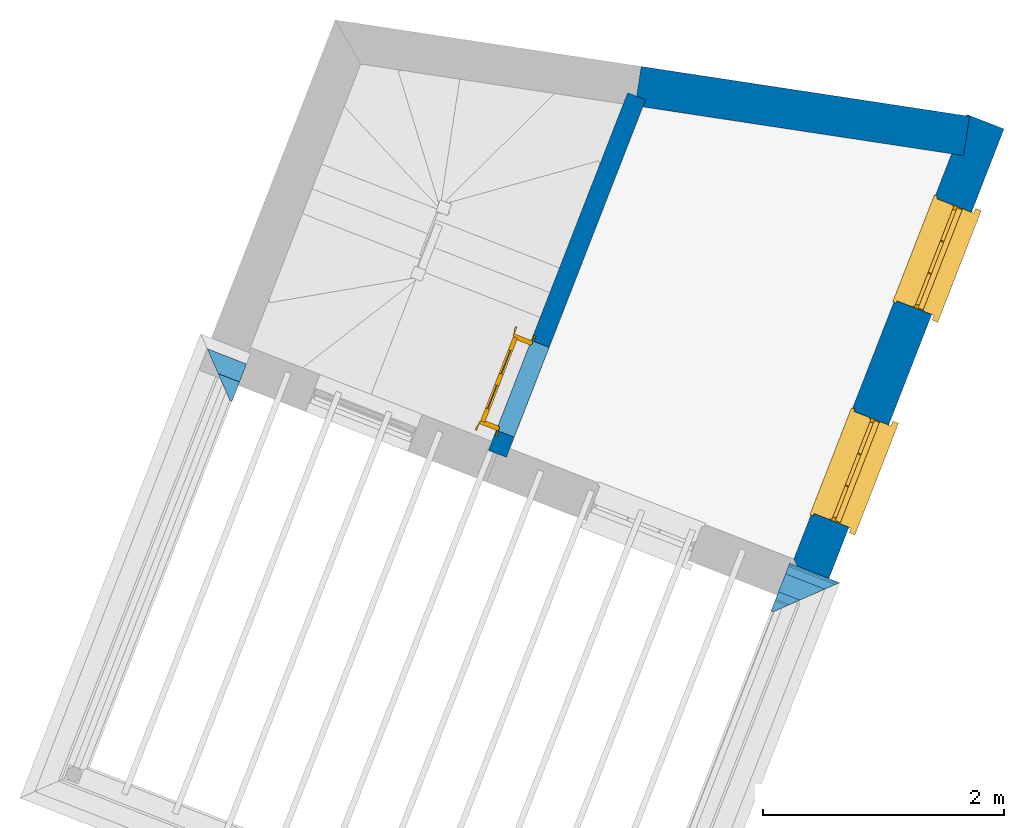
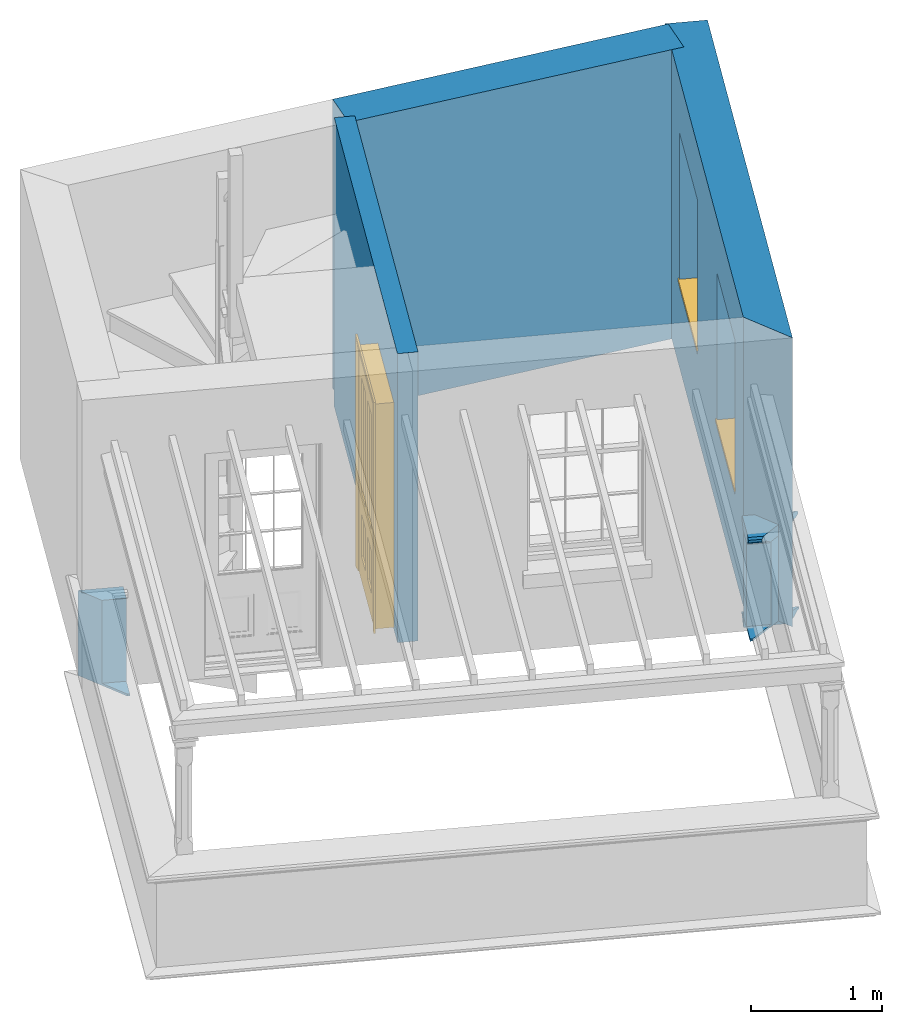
# One storey, part 3 of 5: 7 walls, 2 windows, 1 door, 3 openings.
"""IFC4 building model written with IfcOpenShell, lengths in metres."""

from ifc_helpers import new_model, si_unit, frame, origin, origin_with_axes, place, context, subcontext, project, spatial, polyline, outline, extrude, clip, halfspace, faceted_brep, source, transform, mapped, material, layer, layer_set, layer_usage, material_profile, profile_set, profile_usage, type_object, type_shapes, element, fill, save


model = new_model("IFC4")

# Units and contexts
model_context = context("Model", 3, world=origin_with_axes())
body_context = subcontext(model_context, "Body", "Model", "MODEL_VIEW")
ifc_project = project(units=[si_unit("PLANEANGLEUNIT", "RADIAN"), si_unit("MASSUNIT", "GRAM", prefix="KILO"), si_unit("FORCEUNIT", "NEWTON", prefix="KILO"), si_unit("LENGTHUNIT", "METRE"), si_unit("AREAUNIT", "SQUARE_METRE"), si_unit("VOLUMEUNIT", "CUBIC_METRE")], contexts=[model_context, model_context])

# Sites, building, storey
site_1_placement = place(None, origin_with_axes())
site_1 = spatial("IfcSite", under=ifc_project, at=site_1_placement, Name="Tamar")
site_2_placement = place(site_1_placement, origin_with_axes())
site_2 = spatial("IfcSite", under=site_1, at=site_2_placement, Name="Site plot-10", CompositionType="ELEMENT")
building_placement = place(None, origin_with_axes())
building = spatial("IfcBuilding", under=site_2, at=building_placement, Name="Building plot-10", CompositionType="ELEMENT")
storey_placement = place(None, frame((0.0, 0.0, 30.1), z_axis=(0.0, 0.0, 1.0), x_axis=(1.0, 0.0, 0.0)))
storey = spatial("IfcBuildingStorey", under=building, at=storey_placement, Name="plot-10 1", CompositionType="ELEMENT", Elevation=30.1)

# Wall, openings, windows
ifc_material_1 = material(Name="Masonry")
ifc_layer_1 = layer(ifc_material_1, 0.33, ventilated=False)
ifc_layer_set_1 = layer_set([ifc_layer_1], Name="exterior_0.08_0.25")
ifc_layer_usage_1 = layer_usage(ifc_layer_set_1, "AXIS2", "POSITIVE", -0.25)
wall_type_1 = type_object("IfcWallType", Name="exterior_0.08_0.25", PredefinedType="SOLIDWALL", material=ifc_layer_set_1)
wall_1_placement = place(storey_placement, frame((236.125582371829, 318.345961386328, 0.0), z_axis=(0.0, 0.0, 1.0), x_axis=(0.362808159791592, 0.93186385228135, 0.0)))
wall_1 = element("IfcWall", 1, at=wall_1_placement, inside=storey, type_object=wall_type_1, material=ifc_layer_usage_1, Name="exterior", context=body_context, shape_type="SweptSolid", body=[
    extrude(outline(polyline([(0.0800000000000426, 0.0800000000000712), (-0.250000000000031, -0.250000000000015), (4.03870069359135, -0.249999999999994), (4.03870069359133, 0.0800000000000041), (0.0800000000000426, 0.0800000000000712)])), origin_with_axes(), (0.0, 0.0, 1.0), 2.7),
])
opening_1_placement = place(wall_1_placement, frame((0.492175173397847, 0.0, 0.75)))
opening_1 = element("IfcOpeningElement", 2, at=opening_1_placement, cuts=wall_1, Name="My Opening", ObjectType="Opening", context=body_context, shape_type="SweptSolid", body=[
    extrude(outline(polyline([(0.0, -0.269999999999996), (0.910000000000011, -0.269999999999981), (0.91000000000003, 1.10000000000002), (1.93178806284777e-14, 1.10000000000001), (0.0, -0.269999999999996)])), origin_with_axes(), (0.0, 0.0, 1.0), 1.445),
])
opening_2_placement = place(wall_1_placement, frame((2.38652552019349, 0.0, 0.75)))
opening_2 = element("IfcOpeningElement", 3, at=opening_2_placement, cuts=wall_1, Name="My Opening", ObjectType="Opening", context=body_context, shape_type="SweptSolid", body=[
    extrude(outline(polyline([(0.0, -0.270000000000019), (0.91000000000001, -0.270000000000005), (0.91000000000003, 1.1), (1.90958360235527e-14, 1.09999999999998), (0.0, -0.270000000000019)])), origin_with_axes(), (0.0, 0.0, 1.0), 1.445),
])
window_type = type_object("IfcWindowType", Name="sash_shorter", PartitioningType="DOUBLE_PANEL_HORIZONTAL", PredefinedType="NOTDEFINED")
shared_shape_1 = source(origin(), body_context, "Body", "Brep", [
    faceted_brep([(0.876875, 0.145, 0.999097), (0.876875, 0.145, 1.411875), (0.9, 0.145, 1.435), (0.033125, 0.145, 1.411875), (0.033125, 0.145, 0.999097), (0.01, 0.145, 1.435), (0.033125, 0.115, 1.411875), (0.01, 0.115, 1.435), (0.033125, 0.115, 0.999097), (0.876875, 0.115, 1.411875), (0.876875, 0.115, 0.999097), (0.9, 0.115, 1.435), (0.033125, 0.145, 0.960972), (0.01, 0.145, 0.960972), (0.033125, 0.145, 0.548195), (0.876875, 0.145, 0.960972), (0.876875, 0.145, 0.548195), (0.9, 0.145, 0.960972), (0.876875, 0.145, 0.538195), (0.876875, 0.145, 0.125417), (0.9, 0.145, 0.077167), (0.033125, 0.145, 0.125417), (0.033125, 0.145, 0.538195), (0.01, 0.145, 0.077167), (0.9, 0.115, 0.960972), (0.01, 0.115, 0.960972), (-0.0425, 0.0, 0.01), (-0.0425, -0.05, 0.001667), (0.0, 0.0, 0.01), (0.9525, 0.0, 0.01), (0.91, 0.0, 0.01), (0.9525, -0.05, 0.001667), (-0.02, 0.33, 0.077167), (0.0, 0.33, 0.077167), (-0.02, 0.36, 0.077167), (0.0, 0.19, 0.077167), (0.01, 0.19, 0.077167), (0.91, 0.19, 0.077167), (0.91, 0.33, 0.077167), (0.9, 0.19, 0.077167), (0.93, 0.33, 0.077167), (0.93, 0.36, 0.077167), (0.01, 0.145, 0.999097), (0.01, 0.175, 0.999097), (0.9, 0.145, 0.999097), (0.9, 0.175, 0.999097), (0.876875, 0.175, 0.125417), (0.876875, 0.175, 0.538195), (0.9, 0.175, 0.077167), (0.876875, 0.175, 0.548195), (0.876875, 0.175, 0.960972), (0.033125, 0.175, 0.125417), (0.01, 0.175, 0.077167), (0.033125, 0.175, 0.538195), (0.033125, 0.175, 0.960972), (0.033125, 0.175, 0.548195), (-0.02, 0.33, 0.052167), (-0.02, 0.36, 0.052167), (0.93, 0.36, 0.052167), (0.93, 0.33, 0.052167), (0.91, 0.33, 0.052167), (0.0, 0.33, 0.052167), (0.91, 0.1, 0.026667), (0.0, 0.1, 0.026667), (-0.0425, -0.05, -0.123333), (0.9525, -0.05, -0.123333), (-0.0425, 0.0, -0.123333), (0.9525, 0.0, -0.123333), (0.01, 0.19, 1.435), (0.9, 0.19, 1.435), (0.0, 0.19, 1.445), (0.91, 0.19, 1.445), (0.01, 0.1, 0.077167), (0.9, 0.1, 0.077167), (0.592292, 0.145, 0.125417), (0.592292, 0.175, 0.125417), (0.317708, 0.175, 0.125417), (0.317708, 0.145, 0.125417), (0.592292, 0.145, 0.548195), (0.317708, 0.145, 0.548195), (0.317708, 0.145, 0.538195), (0.592292, 0.145, 0.538195), (0.592292, 0.175, 0.548195), (0.317708, 0.175, 0.548195), (0.602292, 0.175, 0.548195), (0.602292, 0.145, 0.548195), (0.317708, 0.175, 0.538195), (0.307708, 0.175, 0.125417), (0.307708, 0.175, 0.538195), (0.602292, 0.175, 0.538195), (0.602292, 0.175, 0.125417), (0.592292, 0.175, 0.538195), (0.307708, 0.175, 0.548195), (0.317708, 0.175, 0.960972), (0.307708, 0.175, 0.960972), (0.602292, 0.175, 0.960972), (0.592292, 0.175, 0.960972), (0.307708, 0.145, 0.538195), (0.307708, 0.145, 0.125417), (0.307708, 0.145, 0.548195), (0.307708, 0.145, 0.960972), (0.592292, 0.145, 0.960972), (0.317708, 0.145, 0.960972), (0.602292, 0.145, 0.960972), (0.602292, 0.145, 0.538195), (0.602292, 0.145, 0.125417), (0.317708, 0.115, 1.411875), (0.307708, 0.115, 1.411875), (0.307708, 0.115, 0.999097), (0.317708, 0.115, 0.999097), (0.602292, 0.115, 1.411875), (0.592292, 0.115, 1.411875), (0.592292, 0.115, 0.999097), (0.602292, 0.115, 0.999097), (0.317708, 0.145, 0.999097), (0.307708, 0.145, 0.999097), (0.307708, 0.145, 1.411875), (0.317708, 0.145, 1.411875), (0.602292, 0.145, 0.999097), (0.592292, 0.145, 0.999097), (0.592292, 0.145, 1.411875), (0.602292, 0.145, 1.411875), (0.91, 0.1, 1.445), (0.9, 0.1, 1.435), (0.01, 0.1, 1.435), (0.0, 0.1, 1.445), (0.91, 0.0, 0.0), (0.0, 0.0, 0.0), (0.91, 0.33, 0.0), (0.0, 0.33, 0.0)], [[[0, 1, 2]], [[3, 4, 5]], [[6, 7, 8]], [[9, 10, 11]], [[12, 13, 14]], [[15, 16, 17]], [[18, 19, 20]], [[21, 22, 23]], [[24, 15, 17]], [[13, 12, 25]], [[26, 27, 28]], [[29, 30, 31]], [[32, 33, 34]], [[35, 36, 33]], [[37, 38, 39]], [[40, 41, 38]], [[42, 4, 43]], [[44, 45, 0]], [[46, 47, 48]], [[49, 50, 45]], [[51, 52, 53]], [[54, 55, 43]], [[38, 33, 36, 39]], [[41, 34, 33, 38]], [[56, 32, 34, 57]], [[57, 34, 41, 58]], [[58, 41, 40, 59]], [[57, 58, 60, 61]], [[52, 48, 39, 36]], [[62, 63, 28, 30]], [[27, 31, 30, 28]], [[27, 64, 65, 31]], [[66, 67, 65, 64]], [[2, 5, 68, 69]], [[68, 70, 71, 69]], [[20, 23, 72, 73]], [[73, 72, 63, 62]], [[74, 75, 76, 77]], [[78, 79, 80, 81]], [[78, 82, 83, 79]], [[16, 49, 84, 85]], [[86, 76, 87, 88]], [[89, 90, 75, 91]], [[92, 88, 53, 55]], [[82, 91, 86, 83]], [[93, 83, 92, 94]], [[95, 84, 82, 96]], [[89, 84, 49, 47]], [[97, 88, 87, 98]], [[22, 53, 88, 97]], [[81, 91, 75, 74]], [[80, 86, 91, 81]], [[77, 76, 86, 80]], [[99, 92, 55, 14]], [[100, 94, 92, 99]], [[101, 96, 82, 78]], [[79, 83, 93, 102]], [[85, 84, 95, 103]], [[104, 89, 47, 18]], [[105, 90, 89, 104]], [[104, 18, 16, 85]], [[80, 97, 98, 77]], [[104, 81, 74, 105]], [[103, 101, 78, 85]], [[99, 14, 22, 97]], [[102, 100, 99, 79]], [[106, 107, 108, 109]], [[110, 111, 112, 113]], [[114, 115, 116, 117]], [[118, 119, 120, 121]], [[107, 116, 115, 108]], [[111, 120, 119, 112]], [[109, 114, 117, 106]], [[113, 118, 121, 110]], [[85, 78, 81, 104]], [[84, 89, 91, 82]], [[83, 86, 88, 92]], [[79, 99, 97, 80]], [[109, 112, 119, 114]], [[102, 93, 96, 101]], [[106, 117, 120, 111]], [[98, 87, 51, 21]], [[6, 3, 116, 107]], [[110, 121, 1, 9]], [[19, 46, 90, 105]], [[26, 66, 64, 27]], [[29, 31, 65, 67]], [[25, 24, 112, 109]], [[11, 7, 106, 111]], [[75, 48, 52, 76]], [[43, 45, 96, 93]], [[45, 43, 114, 119]], [[5, 2, 120, 117]], [[24, 25, 102, 101]], [[42, 5, 4]], [[2, 44, 0]], [[49, 45, 48, 47]], [[52, 43, 55, 53]], [[14, 13, 23, 22]], [[20, 17, 16, 18]], [[24, 11, 10]], [[25, 8, 7]], [[8, 4, 3, 6]], [[9, 1, 0, 10]], [[15, 50, 49, 16]], [[18, 47, 46, 19]], [[21, 51, 53, 22]], [[14, 55, 54, 12]], [[44, 2, 69, 45]], [[68, 5, 42, 43]], [[36, 35, 70, 68]], [[39, 69, 71, 37]], [[62, 122, 123, 73]], [[63, 72, 124, 125]], [[8, 108, 115, 4]], [[113, 10, 0, 118]], [[94, 100, 12, 54]], [[17, 20, 73, 24]], [[72, 23, 13, 25]], [[52, 36, 68, 43]], [[69, 39, 48, 45]], [[11, 24, 73, 123]], [[7, 124, 72, 25]], [[23, 77, 98]], [[98, 21, 23]], [[105, 74, 20]], [[20, 19, 105]], [[20, 74, 77, 23]], [[113, 112, 24]], [[24, 10, 113]], [[25, 109, 108]], [[108, 8, 25]], [[110, 9, 11]], [[11, 111, 110]], [[7, 6, 107]], [[107, 106, 7]], [[5, 117, 116]], [[116, 3, 5]], [[121, 120, 2]], [[2, 1, 121]], [[11, 123, 124, 7]], [[122, 125, 124, 123]], [[43, 93, 94]], [[94, 54, 43]], [[96, 45, 95]], [[50, 95, 45]], [[15, 103, 95, 50]], [[48, 75, 90]], [[90, 46, 48]], [[87, 76, 52]], [[52, 51, 87]], [[103, 15, 24]], [[24, 101, 103]], [[100, 102, 25]], [[25, 12, 100]], [[115, 114, 43]], [[43, 4, 115]], [[118, 0, 45]], [[45, 119, 118]], [[71, 70, 125, 122]], [[70, 35, 63, 125]], [[122, 62, 37, 71]], [[126, 67, 66, 127]], [[60, 58, 59]], [[38, 60, 59, 40]], [[61, 56, 57]], [[32, 56, 61, 33]], [[61, 60, 128, 129]], [[62, 60, 38, 37]], [[126, 128, 60, 62]], [[33, 61, 63, 35]], [[61, 129, 127, 63]], [[128, 126, 127, 129]], [[28, 127, 66, 26]], [[63, 127, 28]], [[29, 67, 126, 30]], [[30, 126, 62]]]),
])
type_shapes(window_type, [shared_shape_1])
window_1_placement = place(storey_placement, frame((236.555750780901, 318.706643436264, 0.75), z_axis=(0.0, 0.0, 1.0), x_axis=(0.330155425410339, 0.847996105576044, 0.0)))
window_1 = element("IfcWindow", 4, at=window_1_placement, inside=storey, type_object=window_type, Name="toilet outside window", OverallHeight=1.445, OverallWidth=0.91, context=body_context, shape_type="MappedRepresentation", body=[
    mapped(shared_shape_1, transform((0.0, 0.0, 0.0), scale=1.0)),
])
fill(opening_1, window_1)
window_2_placement = place(storey_placement, frame((237.243036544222, 320.471920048, 0.75), z_axis=(0.0, 0.0, 1.0), x_axis=(0.330155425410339, 0.847996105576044, 0.0)))
window_2 = element("IfcWindow", 5, at=window_2_placement, inside=storey, type_object=window_type, Name="toilet outside window", OverallHeight=1.445, OverallWidth=0.91, context=body_context, shape_type="MappedRepresentation", body=[
    mapped(shared_shape_1, transform((0.0, 0.0, 0.0), scale=1.0)),
])
fill(opening_2, window_2)

# Wall
ifc_material_2 = material(Name="Masonry")
ifc_layer_2 = layer(ifc_material_2, 0.33, ventilated=False)
ifc_layer_set_2 = layer_set([ifc_layer_2], Name="party_0.08_0.25")
ifc_layer_usage_2 = layer_usage(ifc_layer_set_2, "AXIS2", "POSITIVE", -0.25)
wall_type_2 = type_object("IfcWallType", Name="party_0.08_0.25", PredefinedType="SOLIDWALL", material=ifc_layer_set_2)
wall_2_placement = place(storey_placement, frame((237.500153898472, 321.876514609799, 0.0), z_axis=(0.0, 0.0, 1.0), x_axis=(-0.988675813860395, 0.150067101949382, 0.0)))
element("IfcWall", 6, at=wall_2_placement, inside=storey, type_object=wall_type_2, material=ifc_layer_usage_2, Name="party", context=body_context, shape_type="SweptSolid", body=[
    extrude(outline(polyline([(-1.30690877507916e-14, 0.0800000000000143), (1.51410916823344e-15, -0.250000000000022), (2.75611606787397, -0.250000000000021), (2.75611606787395, 0.0800000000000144), (-1.30690877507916e-14, 0.0800000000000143)])), origin_with_axes(), (0.0, 0.0, 1.0), 2.7),
])

# Wall, opening, door
ifc_material_3 = material(Name="Masonry")
ifc_layer_3 = layer(ifc_material_3, 0.16, ventilated=False)
ifc_layer_set_3 = layer_set([ifc_layer_3], Name="interior_0.08_0.08")
ifc_layer_usage_3 = layer_usage(ifc_layer_set_3, "AXIS2", "POSITIVE", -0.08)
wall_type_3 = type_object("IfcWallType", Name="interior_0.08_0.08", PredefinedType="SOLIDWALL", material=ifc_layer_set_3)
wall_3_placement = place(storey_placement, frame((233.619521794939, 319.321661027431, 0.0), z_axis=(0.0, 0.0, 1.0), x_axis=(0.362808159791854, 0.931863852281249, 0.0)))
wall_3 = element("IfcWall", 7, at=wall_3_placement, inside=storey, type_object=wall_type_3, material=ifc_layer_usage_3, Name="interior", context=body_context, shape_type="SweptSolid", body=[
    extrude(outline(polyline([(-1.61599486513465e-14, 0.0800000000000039), (1.61697458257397e-14, -0.0800000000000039), (3.18550389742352, -0.0800000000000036), (3.18550389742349, 0.0800000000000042), (-1.61599486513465e-14, 0.0800000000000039)])), origin_with_axes(), (0.0, 0.0, 1.0), 2.7),
])
opening_3_placement = place(wall_3_placement, frame((0.180000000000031, 0.0, 0.0199999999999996)))
opening_3 = element("IfcOpeningElement", 8, at=opening_3_placement, cuts=wall_3, Name="My Opening", ObjectType="Opening", context=body_context, shape_type="SweptSolid", body=[
    extrude(outline(polyline([(0.0, -0.100000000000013), (0.799999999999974, -0.0999999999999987), (0.799999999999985, 1.10000000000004), (1.05193631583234e-14, 1.10000000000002), (0.0, -0.100000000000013)])), origin_with_axes(), (0.0, 0.0, 1.0), 2.1),
])
door_type = type_object("IfcDoorType", Name="door_inside", OperationType="SINGLE_SWING_LEFT", PredefinedType="NOTDEFINED")
shared_shape_2 = source(origin(), body_context, "Body", "Brep", [
    faceted_brep([(0.773, 0.33, 1.895), (0.66, 0.33, 1.895), (0.66, 0.33, 2.073), (0.773, 0.33, 2.073), (0.773, 0.33, 0.82), (0.66, 0.33, 0.82), (0.45, 0.33, 1.895), (0.45, 0.33, 2.073), (0.773, 0.33, 0.62), (0.66, 0.33, 0.62), (0.66, 0.315, 0.82), (0.66, 0.315, 1.895), (0.45, 0.315, 1.895), (0.35, 0.33, 1.895), (0.35, 0.33, 2.073), (0.773, 0.33, 0.225), (0.66, 0.33, 0.225), (0.45, 0.33, 0.62), (0.45, 0.33, 0.82), (0.45, 0.315, 0.82), (0.35, 0.33, 0.82), (0.14, 0.33, 2.073), (0.14, 0.33, 1.895), (0.773, 0.33, 0.0), (0.66, 0.33, 0.0), (0.66, 0.315, 0.225), (0.66, 0.315, 0.62), (0.45, 0.315, 0.62), (0.35, 0.33, 0.62), (0.35, 0.315, 0.82), (0.35, 0.315, 1.895), (0.14, 0.315, 1.895), (0.027, 0.33, 2.073), (0.027, 0.33, 1.895), (0.773, 0.292, 0.0), (0.66, 0.292, 0.0), (0.45, 0.33, 0.0), (0.45, 0.33, 0.225), (0.45, 0.315, 0.225), (0.35, 0.33, 0.225), (0.14, 0.33, 0.82), (0.14, 0.33, 0.62), (0.14, 0.315, 0.82), (0.027, 0.33, 0.82), (0.773, 0.292, 0.225), (0.66, 0.292, 0.225), (0.45, 0.292, 0.0), (0.35, 0.33, 0.0), (0.35, 0.315, 0.225), (0.35, 0.315, 0.62), (0.14, 0.315, 0.62), (0.027, 0.33, 0.62), (0.773, 0.292, 0.62), (0.66, 0.292, 0.62), (0.45, 0.292, 0.225), (0.35, 0.292, 0.0), (0.14, 0.33, 0.225), (0.14, 0.33, 0.0), (0.14, 0.315, 0.225), (0.027, 0.33, 0.225), (0.773, 0.292, 0.82), (0.66, 0.292, 0.82), (0.66, 0.307, 0.62), (0.66, 0.307, 0.225), (0.45, 0.307, 0.225), (0.35, 0.292, 0.225), (0.14, 0.292, 0.0), (0.027, 0.33, 0.0), (0.773, 0.292, 1.895), (0.66, 0.292, 1.895), (0.45, 0.292, 0.62), (0.45, 0.292, 0.82), (0.45, 0.307, 0.62), (0.35, 0.292, 0.62), (0.14, 0.292, 0.225), (0.027, 0.292, 0.0), (0.773, 0.292, 2.073), (0.66, 0.292, 2.073), (0.66, 0.307, 1.895), (0.66, 0.307, 0.82), (0.45, 0.307, 0.82), (0.35, 0.292, 0.82), (0.35, 0.307, 0.62), (0.35, 0.307, 0.225), (0.14, 0.307, 0.225), (0.027, 0.292, 0.225), (0.45, 0.292, 1.895), (0.45, 0.292, 2.073), (0.45, 0.307, 1.895), (0.35, 0.292, 1.895), (0.14, 0.292, 0.82), (0.14, 0.292, 0.62), (0.14, 0.307, 0.62), (0.027, 0.292, 0.62), (0.35, 0.292, 2.073), (0.35, 0.307, 1.895), (0.35, 0.307, 0.82), (0.14, 0.307, 0.82), (0.027, 0.292, 0.82), (0.14, 0.292, 2.073), (0.14, 0.292, 1.895), (0.14, 0.307, 1.895), (0.027, 0.292, 1.895), (0.027, 0.292, 2.073), (0.02, 0.335, 0.0), (0.005, 0.34, 0.0), (0.005, 0.34, 2.095), (0.02, 0.335, 2.08), (0.02, 0.33, 0.0), (0.0, 0.335, 0.0), (0.0, 0.335, 2.1), (0.795, 0.34, 2.095), (0.78, 0.335, 2.08), (0.02, 0.33, 2.08), (0.0, 0.33, 0.0), (-0.032, 0.345, 0.0), (-0.032, 0.345, 2.132), (0.8, 0.335, 2.1), (0.795, 0.34, 0.0), (0.78, 0.335, 0.0), (0.78, 0.33, 2.08), (0.04, 0.29, 0.0), (0.025, 0.29, 0.0), (0.025, 0.29, 2.075), (0.04, 0.29, 2.06), (-0.04, 0.34, 0.0), (-0.04, 0.34, 2.14), (0.832, 0.345, 2.132), (0.8, 0.335, 0.0), (0.78, 0.33, 0.0), (0.8, 0.33, 0.0), (0.86, 0.33, 0.0), (0.86, 0.33, 2.16), (0.8, 0.33, 2.1), (-0.06, 0.33, 2.16), (0.0, 0.33, 2.1), (-0.06, 0.33, 0.0), (-0.04, 0.345, 0.0), (-0.04, 0.345, 2.14), (0.84, 0.34, 2.14), (0.832, 0.345, 0.0), (0.84, 0.34, 0.0), (0.86, 0.345, 0.0), (0.86, 0.345, 2.16), (-0.06, 0.345, 2.16), (-0.06, 0.345, 0.0), (0.84, 0.345, 0.0), (0.84, 0.345, 2.14), (-0.025, 0.155, 0.0), (-0.025, 0.16, 0.0), (-0.025, 0.16, 2.125), (-0.025, 0.155, 2.125), (-0.017, 0.155, 0.0), (-0.017, 0.155, 2.117), (0.825, 0.16, 2.125), (0.825, 0.155, 2.125), (0.825, 0.155, 0.0), (0.845, 0.155, 0.0), (-0.045, 0.155, 2.145), (-0.045, 0.155, 0.0), (0.845, 0.155, 2.145), (0.015, 0.165, 0.0), (0.015, 0.165, 2.085), (0.817, 0.155, 2.117), (0.825, 0.16, 0.0), (0.845, 0.17, 0.0), (0.845, 0.17, 2.145), (-0.045, 0.17, 2.145), (-0.045, 0.17, 0.0), (0.02, 0.16, 0.0), (0.02, 0.16, 2.08), (0.785, 0.165, 2.085), (0.817, 0.155, 0.0), (0.8, 0.17, 0.0), (0.8, 0.17, 2.1), (0.0, 0.17, 2.1), (0.0, 0.17, 0.0), (0.035, 0.165, 0.0), (0.035, 0.165, 2.065), (0.78, 0.16, 2.08), (0.785, 0.165, 0.0), (0.775, 0.29, 2.075), (0.76, 0.29, 2.06), (0.035, 0.17, 2.065), (0.035, 0.17, 0.0), (0.765, 0.165, 2.065), (0.78, 0.16, 0.0), (0.765, 0.17, 0.0), (0.765, 0.17, 2.065), (0.765, 0.165, 0.0), (0.04, 0.17, 2.06), (0.04, 0.17, 0.0), (0.76, 0.17, 2.06), (0.76, 0.17, 0.0), (0.76, 0.29, 0.0), (0.775, 0.29, 0.0), (0.025, 0.33, 0.0), (0.025, 0.33, 2.075), (0.775, 0.33, 0.0), (0.775, 0.33, 2.075)], [[[0, 1, 2, 3]], [[1, 0, 4, 5]], [[1, 6, 7, 2]], [[8, 9, 5, 4]], [[1, 5, 10, 11]], [[6, 1, 11, 12]], [[6, 13, 14, 7]], [[15, 16, 9, 8]], [[9, 17, 18, 5]], [[5, 18, 19, 10]], [[10, 19, 12, 11]], [[18, 6, 12, 19]], [[18, 20, 13, 6]], [[21, 14, 13, 22]], [[23, 24, 16, 15]], [[9, 16, 25, 26]], [[17, 9, 26, 27]], [[17, 28, 20, 18]], [[13, 20, 29, 30]], [[22, 13, 30, 31]], [[32, 21, 22, 33]], [[34, 35, 24, 23]], [[24, 36, 37, 16]], [[16, 37, 38, 25]], [[25, 38, 27, 26]], [[37, 17, 27, 38]], [[37, 39, 28, 17]], [[40, 20, 28, 41]], [[20, 40, 42, 29]], [[31, 30, 29, 42]], [[40, 22, 31, 42]], [[33, 22, 40, 43]], [[35, 34, 44, 45]], [[35, 46, 36, 24]], [[36, 47, 39, 37]], [[28, 39, 48, 49]], [[41, 28, 49, 50]], [[43, 40, 41, 51]], [[45, 44, 52, 53]], [[46, 35, 45, 54]], [[46, 55, 47, 36]], [[56, 39, 47, 57]], [[39, 56, 58, 48]], [[50, 49, 48, 58]], [[56, 41, 50, 58]], [[51, 41, 56, 59]], [[53, 52, 60, 61]], [[45, 53, 62, 63]], [[54, 45, 63, 64]], [[55, 46, 54, 65]], [[55, 66, 57, 47]], [[59, 56, 57, 67]], [[61, 60, 68, 69]], [[70, 53, 61, 71]], [[53, 70, 72, 62]], [[72, 64, 63, 62]], [[70, 54, 64, 72]], [[65, 54, 70, 73]], [[65, 74, 66, 55]], [[67, 57, 66, 75]], [[69, 68, 76, 77]], [[61, 69, 78, 79]], [[71, 61, 79, 80]], [[73, 70, 71, 81]], [[65, 73, 82, 83]], [[74, 65, 83, 84]], [[74, 85, 75, 66]], [[86, 69, 77, 87]], [[69, 86, 88, 78]], [[88, 80, 79, 78]], [[86, 71, 80, 88]], [[81, 71, 86, 89]], [[73, 81, 90, 91]], [[73, 91, 92, 82]], [[83, 82, 92, 84]], [[91, 74, 84, 92]], [[91, 93, 85, 74]], [[89, 86, 87, 94]], [[81, 89, 95, 96]], [[90, 81, 96, 97]], [[90, 98, 93, 91]], [[94, 99, 100, 89]], [[89, 100, 101, 95]], [[101, 97, 96, 95]], [[100, 90, 97, 101]], [[100, 102, 98, 90]], [[99, 103, 102, 100]], [[32, 103, 99, 21]], [[102, 103, 32, 33]], [[98, 102, 33, 43]], [[21, 99, 94, 14]], [[94, 87, 7, 14]], [[7, 87, 77, 2]], [[76, 3, 2, 77]], [[43, 51, 93, 98]], [[51, 59, 85, 93]], [[67, 75, 85, 59]], [[34, 23, 15, 44]], [[44, 15, 8, 52]], [[52, 8, 4, 60]], [[0, 68, 60, 4]], [[0, 3, 76, 68]], [[104, 105, 106, 107]], [[104, 108, 109, 105]], [[105, 109, 110, 106]], [[107, 106, 111, 112]], [[107, 113, 108, 104]], [[114, 109, 108]], [[109, 115, 116, 110]], [[106, 110, 117, 111]], [[112, 111, 118, 119]], [[113, 107, 112, 120]], [[121, 122, 123, 124]], [[115, 109, 114, 125]], [[115, 125, 126, 116]], [[110, 116, 127, 117]], [[111, 117, 128, 118]], [[118, 128, 129, 119]], [[120, 112, 119, 129]], [[130, 129, 128]], [[130, 131, 132, 133]], [[133, 132, 134, 135]], [[135, 134, 136, 114]], [[136, 125, 114]], [[125, 137, 138, 126]], [[116, 126, 139, 127]], [[117, 127, 140, 128]], [[141, 130, 128, 140]], [[131, 130, 141]], [[131, 142, 143, 132]], [[132, 143, 144, 134]], [[134, 144, 145, 136]], [[137, 125, 136, 145]], [[143, 142, 146]], [[143, 146, 147]], [[137, 145, 144]], [[143, 147, 138]], [[138, 137, 144]], [[143, 138, 144]], [[126, 138, 147, 139]], [[127, 139, 141, 140]], [[142, 131, 141, 146]], [[139, 147, 146, 141]], [[148, 149, 150, 151]], [[149, 152, 153, 150]], [[151, 150, 154, 155]], [[155, 156, 157]], [[158, 159, 148]], [[158, 148, 151]], [[155, 157, 160]], [[158, 151, 155]], [[155, 160, 158]], [[152, 161, 162, 153]], [[150, 153, 163, 154]], [[155, 154, 164, 156]], [[156, 164, 165, 157]], [[157, 165, 166, 160]], [[160, 166, 167, 158]], [[158, 167, 168, 159]], [[161, 169, 170, 162]], [[153, 162, 171, 163]], [[154, 163, 172, 164]], [[165, 164, 173]], [[165, 173, 174, 166]], [[166, 174, 175, 167]], [[167, 175, 176, 168]], [[169, 177, 178, 170]], [[162, 170, 179, 171]], [[163, 171, 180, 172]], [[172, 180, 173, 164]], [[124, 123, 181, 182]], [[183, 178, 177, 184]], [[170, 178, 185, 179]], [[171, 179, 186, 180]], [[187, 173, 180]], [[185, 188, 187, 189]], [[188, 185, 178, 183]], [[179, 185, 189, 186]], [[189, 187, 180, 186]], [[190, 183, 184, 191]], [[192, 188, 183, 190]], [[191, 184, 122, 121]], [[124, 190, 191, 121]], [[193, 187, 188, 192]], [[182, 192, 190, 124]], [[184, 176, 122]], [[194, 195, 187, 193]], [[192, 182, 194, 193]], [[161, 176, 184]], [[114, 108, 122, 176]], [[173, 187, 195]], [[152, 149, 176, 161]], [[169, 161, 184, 177]], [[196, 122, 108]], [[176, 175, 135, 114]], [[173, 195, 129, 130]], [[176, 149, 168]], [[123, 122, 196, 197]], [[196, 108, 113, 197]], [[175, 174, 133, 135]], [[198, 129, 195]], [[133, 174, 173, 130]], [[159, 168, 149, 148]], [[181, 123, 197, 199]], [[197, 113, 120, 199]], [[199, 120, 129, 198]], [[195, 181, 199, 198]], [[195, 194, 182, 181]]]),
])
type_shapes(door_type, [shared_shape_2])
door_placement = place(storey_placement, frame((233.77801364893, 319.453115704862, 0.0199999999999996), z_axis=(0.0, 0.0, 1.0), x_axis=(0.29024652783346, 0.74549108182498, 0.0)))
door = element("IfcDoor", 9, at=door_placement, inside=storey, type_object=door_type, Name="toilet inside door", OverallHeight=2.1, OverallWidth=0.8, context=body_context, shape_type="MappedRepresentation", body=[
    mapped(shared_shape_2, transform((0.0, 0.0, 0.0), scale=1.0)),
])
fill(opening_3, door)

# Walls
ifc_material_profile_1 = material_profile(None, outline(polyline([(0.25, 0.0), (0.25, 0.795), (0.09, 0.795), (0.09, 0.02), (-0.08, 0.02), (-0.08, 0.0), (0.25, 0.0)])))
ifc_profile_set_1 = profile_set([ifc_material_profile_1])
ifc_profile_usage_1 = profile_usage(ifc_profile_set_1)
wall_type_4 = type_object("IfcWallType", Name="parapet_0", PredefinedType="PARAPET", material=ifc_profile_set_1)
wall_4_placement = place(storey_placement, frame((230.421928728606, 320.233932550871, 0.0), z_axis=(0.931863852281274, -0.362808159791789, 0.0), x_axis=(0.362808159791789, 0.931863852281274, 0.0)))
element("IfcWall", 10, at=wall_4_placement, inside=storey, type_object=wall_type_4, material=ifc_profile_usage_1, Name="parapet_0", context=body_context, shape_type="Clipping", body=[
    clip(clip(extrude(outline(polyline([(0.25, 0.0), (0.25, 0.795), (0.09, 0.795), (0.09, 0.02), (-0.08, 0.02), (-0.08, 0.0), (0.25, 0.0)])), origin_with_axes(), (0.0, 0.0, 1.0), 2.10000000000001), halfspace(frame((0.0, 0.0, 1.10000000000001), z_axis=(1.41496223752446e-14, 0.0, -1.0), x_axis=(0.0, 1.0, 0.0)), True)), halfspace(frame((0.0, 0.0, 1.0), z_axis=(-0.707106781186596, 0.0, -0.707106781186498), x_axis=(0.0, 1.0, 0.0)), False)),
])
ifc_profile_usage_2 = profile_usage(ifc_profile_set_1)
wall_5_placement = place(storey_placement, frame((234.988061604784, 318.456172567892, 0.0), z_axis=(0.931863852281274, -0.362808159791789, 0.0), x_axis=(0.362808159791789, 0.931863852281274, 0.0)))
element("IfcWall", 11, at=wall_5_placement, inside=storey, type_object=wall_type_4, material=ifc_profile_usage_2, Name="parapet_0", context=body_context, shape_type="Clipping", body=[
    clip(clip(extrude(outline(polyline([(0.25, 0.0), (0.25, 0.795), (0.09, 0.795), (0.09, 0.02), (-0.08, 0.02), (-0.08, 0.0), (0.25, 0.0)])), origin_with_axes(), (0.0, 0.0, 1.0), 2.10000000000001), halfspace(frame((0.0, 0.0, 1.10000000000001), z_axis=(0.707106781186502, 0.0, -0.707106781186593), x_axis=(0.0, 1.0, 0.0)), True)), halfspace(frame((0.0, 0.0, 1.0), z_axis=(1.41496223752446e-14, 0.0, -1.0), x_axis=(0.0, 1.0, 0.0)), False)),
])
ifc_material_profile_2 = material_profile(None, outline(polyline([(0.265, 0.795), (0.268, 0.807), (0.274, 0.816), (0.283, 0.822), (0.295, 0.825), (0.295, 0.84), (0.305, 0.84), (0.317, 0.842), (0.326, 0.849), (0.333, 0.858), (0.335, 0.87), (0.333, 0.882), (0.326, 0.891), (0.317, 0.898), (0.305, 0.9), (0.035, 0.9), (0.023, 0.898), (0.014, 0.891), (0.007, 0.882), (0.005, 0.87), (0.007, 0.858), (0.014, 0.849), (0.023, 0.842), (0.035, 0.84), (0.045, 0.84), (0.045, 0.825), (0.057, 0.822), (0.066, 0.816), (0.072, 0.807), (0.075, 0.795), (0.265, 0.795)])))
ifc_profile_set_2 = profile_set([ifc_material_profile_2])
ifc_profile_usage_3 = profile_usage(ifc_profile_set_2)
wall_type_5 = type_object("IfcWallType", Name="parapet_1", PredefinedType="PARAPET", material=ifc_profile_set_2)
wall_6_placement = place(storey_placement, frame((234.988061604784, 318.456172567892, 0.0), z_axis=(0.931863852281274, -0.362808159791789, 0.0), x_axis=(0.362808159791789, 0.931863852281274, 0.0)))
element("IfcWall", 12, at=wall_6_placement, inside=storey, type_object=wall_type_5, material=ifc_profile_usage_3, Name="parapet_1", context=body_context, shape_type="Clipping", body=[
    clip(clip(extrude(outline(polyline([(0.265, 0.795), (0.268, 0.807), (0.274, 0.816), (0.283, 0.822), (0.295, 0.825), (0.295, 0.84), (0.305, 0.84), (0.317, 0.842), (0.326, 0.849), (0.333, 0.858), (0.335, 0.87), (0.333, 0.882), (0.326, 0.891), (0.317, 0.898), (0.305, 0.9), (0.035, 0.9), (0.023, 0.898), (0.014, 0.891), (0.007, 0.882), (0.005, 0.87), (0.007, 0.858), (0.014, 0.849), (0.023, 0.842), (0.035, 0.84), (0.045, 0.84), (0.045, 0.825), (0.057, 0.822), (0.066, 0.816), (0.072, 0.807), (0.075, 0.795), (0.265, 0.795)])), origin_with_axes(), (0.0, 0.0, 1.0), 2.10000000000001), halfspace(frame((0.0, 0.0, 1.10000000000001), z_axis=(0.707106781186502, 0.0, -0.707106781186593), x_axis=(0.0, 1.0, 0.0)), True)), halfspace(frame((0.0, 0.0, 1.0), z_axis=(1.41496223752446e-14, 0.0, -1.0), x_axis=(0.0, 1.0, 0.0)), False)),
])
ifc_material_profile_3 = material_profile(None, outline(polyline([(0.25, -0.1), (0.265, -0.1), (0.265, -0.085), (0.278, -0.084), (0.289, -0.081), (0.301, -0.074), (0.309, -0.065), (0.315, -0.055), (0.324, -0.044), (0.334, -0.038), (0.345, -0.035), (0.345, -0.015), (0.25, 0.0), (0.25, -0.1)])))
ifc_profile_set_3 = profile_set([ifc_material_profile_3])
ifc_profile_usage_4 = profile_usage(ifc_profile_set_3)
wall_type_6 = type_object("IfcWallType", Name="parapet_2", PredefinedType="PARAPET", material=ifc_profile_set_3)
wall_7_placement = place(storey_placement, frame((234.988061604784, 318.456172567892, 0.0), z_axis=(0.931863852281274, -0.362808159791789, 0.0), x_axis=(0.362808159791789, 0.931863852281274, 0.0)))
element("IfcWall", 13, at=wall_7_placement, inside=storey, type_object=wall_type_6, material=ifc_profile_usage_4, Name="parapet_2", context=body_context, shape_type="Clipping", body=[
    clip(clip(extrude(outline(polyline([(0.25, -0.1), (0.265, -0.1), (0.265, -0.085), (0.278, -0.084), (0.289, -0.081), (0.301, -0.074), (0.309, -0.065), (0.315, -0.055), (0.324, -0.044), (0.334, -0.038), (0.345, -0.035), (0.345, -0.015), (0.25, 0.0), (0.25, -0.1)])), origin_with_axes(), (0.0, 0.0, 1.0), 2.10000000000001), halfspace(frame((0.0, 0.0, 1.10000000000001), z_axis=(0.707106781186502, 0.0, -0.707106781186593), x_axis=(0.0, 1.0, 0.0)), True)), halfspace(frame((0.0, 0.0, 1.0), z_axis=(1.41496223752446e-14, 0.0, -1.0), x_axis=(0.0, 1.0, 0.0)), False)),
])

save(model, "model.ifc")
